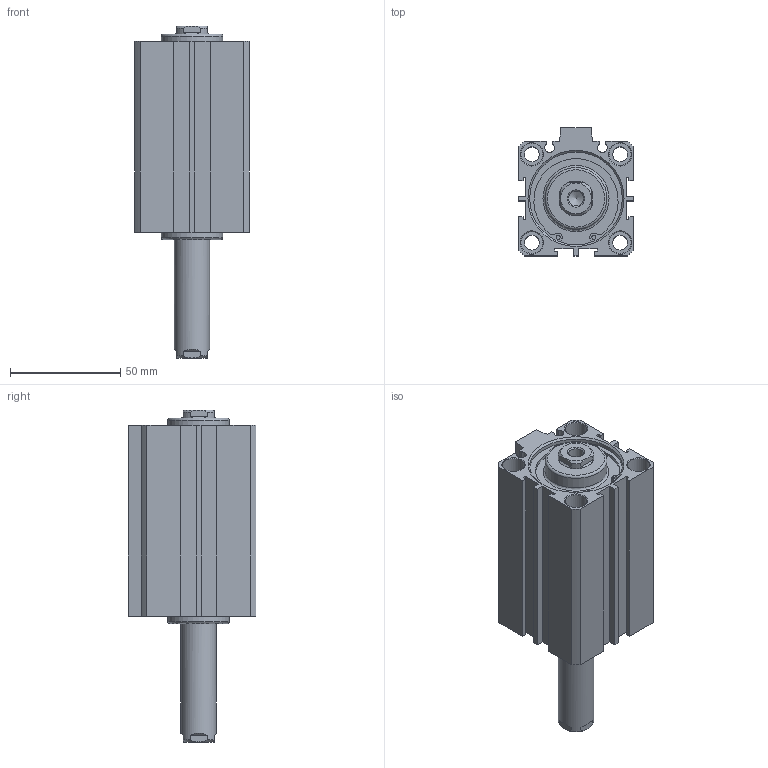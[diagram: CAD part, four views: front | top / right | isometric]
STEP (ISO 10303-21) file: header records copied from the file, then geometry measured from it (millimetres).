
FILE_DESCRIPTION((''),'2;1');
FILE_NAME('I:\3D電子目錄\氣缸\JDD\JDD-S\JDD40-S\JDD40x50-S.stp','2007-02-09T08:34:15',('662F206'),(''),'Autodesk Inventor 10','Autodesk Inventor 10','');
FILE_SCHEMA(('AUTOMOTIVE_DESIGN { 1 0 10303 214 1 1 1 1 }'));
Length unit declared in the file: millimetre
Products named in the file (3): JDD40-S; R 形環 42
Assembly tree (3 placements, depth 2):
  JDD40-S
    JDD40-S
    R 形環 42  x2
Bounding box: 52 x 58 x 150.5 mm (x, y, z)
Volume: 216038.7 mm3; surface area: 47230.4 mm2
Topology: 3 solids, 3 shells, 179 faces, 431 edges, 280 vertices
Faces by surface type: plane 98, cylinder 49, cone 24, bspline 6, torus 2
Full cylindrical faces by diameter (mm): 1.9 x4, 2.2 x2, 6.8 x4, 10 x8, 16 x1, 28 x2, 42 x4, 44.5 x2
Entity records: 4755 total; most frequent: CARTESIAN_POINT 955, DIRECTION 792, ORIENTED_EDGE 686, EDGE_CURVE 343, AXIS2_PLACEMENT_3D 298, VERTEX_POINT 251, EDGE_LOOP 250, VECTOR 196
